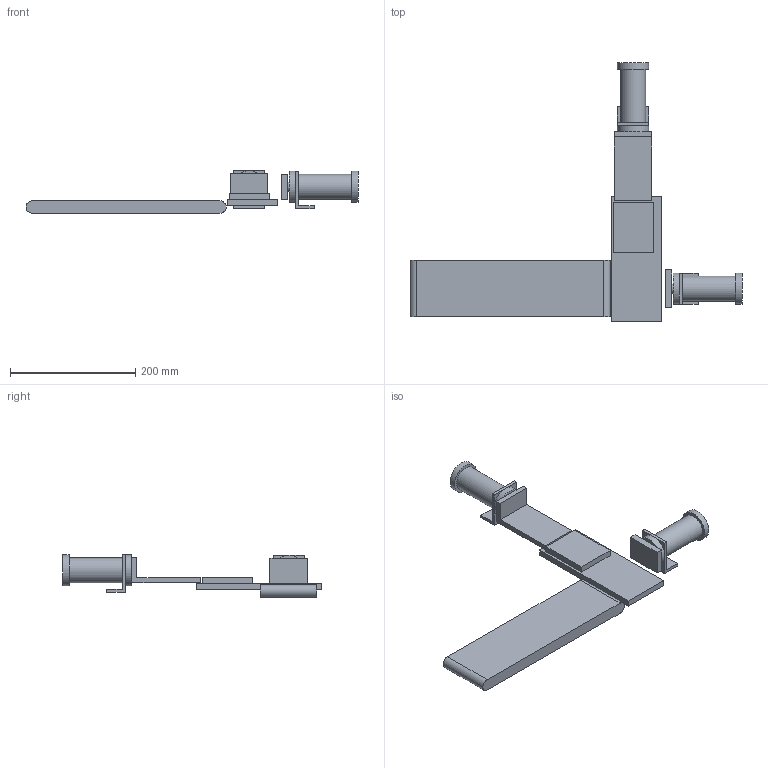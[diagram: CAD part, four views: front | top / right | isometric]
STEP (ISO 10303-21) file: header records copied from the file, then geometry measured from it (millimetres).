
FILE_DESCRIPTION(/* description */ (''),/* implementation_level */ '2;1');
FILE_NAME(/* name */ 'TRANSPORT-STATION 00.stp',/* time_stamp */ '2025-04-15T17:02:31+02:00',/* author */ (''),/* organization */ (''),/* preprocessor_version */ 'ST-DEVELOPER v19.4',/* originating_system */ 'SIEMENS PLM Software NX2306.9102',/* authorisation */ '');
FILE_SCHEMA (('AUTOMOTIVE_DESIGN { 1 0 10303 214 3 1 1 1 }'));
Length unit declared in the file: millimetre
Products named in the file (7): KOLBEN2_id189_catpart; PLATTFORM_id168_catpart; ZYLINDER_id126_catpart; KOLBEN_id84_catpart; WERKSTUECK_id63_catpart; BAND_id42_catpart; PRAEGESTATION_catproduct
Assembly tree (7 placements, depth 2):
  PRAEGESTATION_catproduct
    BAND_id42_catpart
    WERKSTUECK_id63_catpart
    KOLBEN_id84_catpart
    ZYLINDER_id126_catpart  x2
    PLATTFORM_id168_catpart
    KOLBEN2_id189_catpart
Bounding box: 530.68 x 412.97 x 68.17 mm (x, y, z)
Volume: 1240678.2 mm3; surface area: 209382.2 mm2
Topology: 7 solids, 7 shells, 68 faces, 138 edges, 90 vertices
Faces by surface type: plane 58, cylinder 10
Full cylindrical faces by diameter (mm): 15 x2, 40 x2, 50 x4
Entity records: 1487 total; most frequent: DIRECTION 235, CARTESIAN_POINT 227, ORIENTED_EDGE 198, EDGE_CURVE 99, LINE 83, VECTOR 83, AXIS2_PLACEMENT_3D 76, VERTEX_POINT 68
